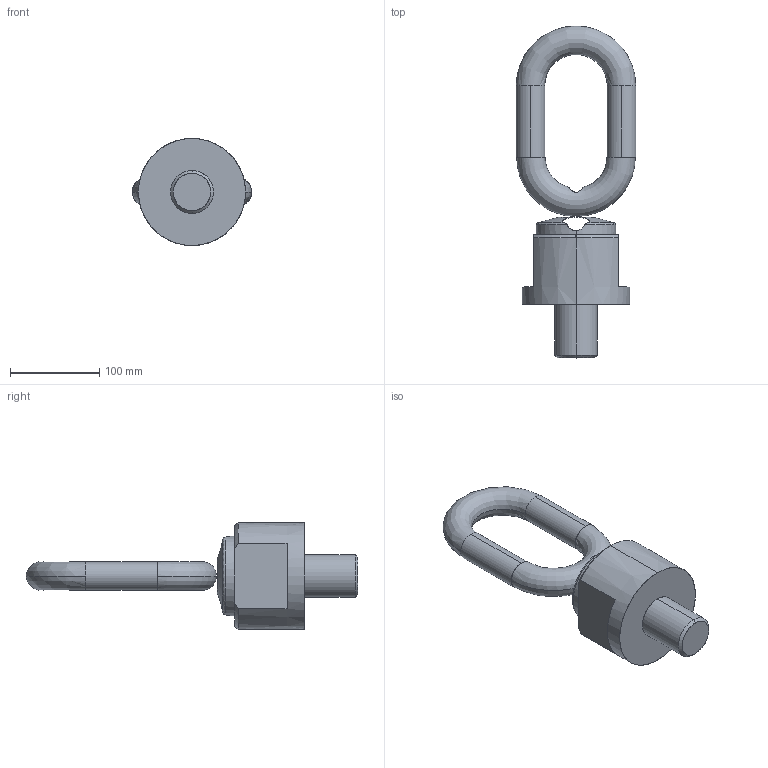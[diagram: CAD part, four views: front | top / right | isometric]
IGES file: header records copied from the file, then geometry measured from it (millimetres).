
Start section: START RECORD GO HERE.
Global section: file name: C8001504860.igs; native system: DASSAULT SYSTEMES CATIA V5 R20 - www.3ds.com; preprocessor: CATIA Version 5 Release 20 ; author: Utente; organization: NB04-ASUS; date: 20200412.161002; units: millimetre
Bounding box: 134 x 372 x 120 mm (x, y, z)
Surface area: 109594.7 mm2 (no closed solid volume)
Topology: 0 solids, 0 shells, 36 faces, 180 edges, 180 vertices
Faces by surface type: revolution 24, extrusion 12
